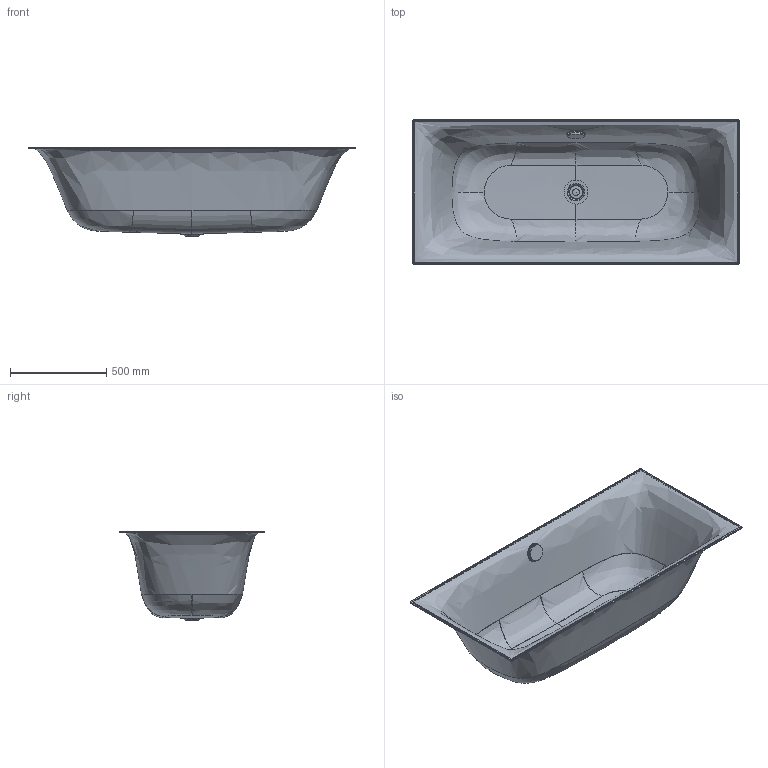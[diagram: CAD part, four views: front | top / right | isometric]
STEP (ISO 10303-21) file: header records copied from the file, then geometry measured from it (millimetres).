
FILE_DESCRIPTION((' '),'2;1');
FILE_NAME( '18514d8debef0dc3.stp', '2022-12-15T09:13:55', (' '), ('--- Datakit www.datakit.com---'), ' Datakit CrossCadWare V2022.3 Jun 15 2022', 'DATAKIT 2022 (c)', ' ');
FILE_SCHEMA(('CONFIG_CONTROL_DESIGN'));
Length unit declared in the file: millimetre
Products named in the file (1): 18514d8c65ececc3
Bounding box: 1699 x 749 x 464.8 mm (x, y, z)
Volume: 106327.3 mm3; surface area: 4521972.8 mm2
Topology: 2 solids, 3 shells, 111 faces, 280 edges, 183 vertices
Faces by surface type: torus 28, cylinder 26, bspline 23, plane 21, offset 11, cone 2
Full cylindrical faces by diameter (mm): 35 x1, 52 x2
Entity records: 38587 total; most frequent: CARTESIAN_POINT 36187, ORIENTED_EDGE 520, DIRECTION 410, EDGE_CURVE 260, VERTEX_POINT 177, AXIS2_PLACEMENT_3D 174, EDGE_LOOP 140, ADVANCED_FACE 113
